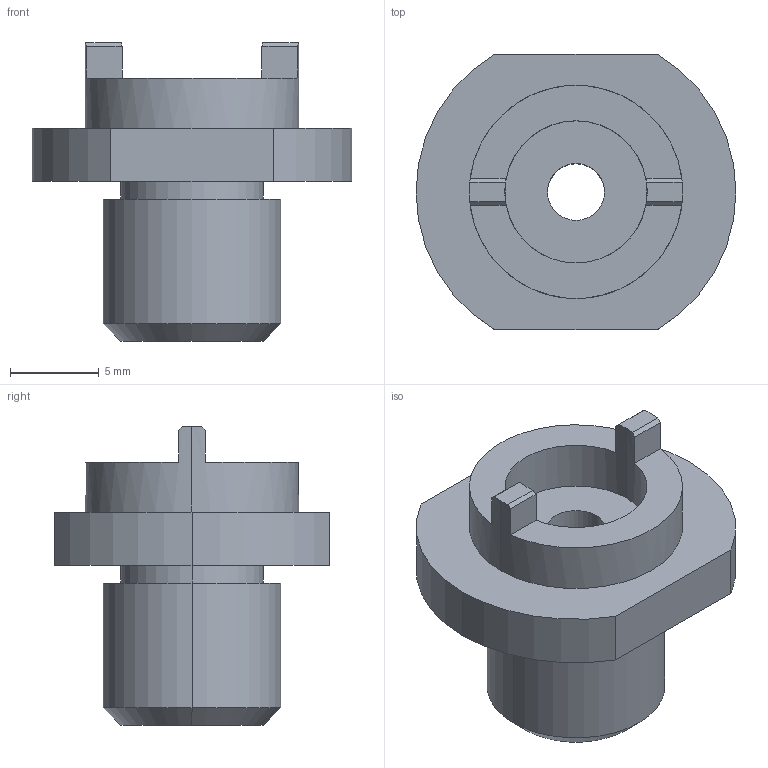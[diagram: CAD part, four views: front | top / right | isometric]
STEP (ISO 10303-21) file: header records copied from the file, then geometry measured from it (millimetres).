
FILE_DESCRIPTION(('CATIA V5 STEP Exchange'),'2;1');
FILE_NAME('D:\姚明阳\1、工装图纸\AGZ054 轻卡气悬浮阀芯组装工具\AGZ054 设计文件（可编辑版本）\AGZ54.03_V1.stp','2024-11-20T07:53:26+00:00',('none'),('none'),'CATIA Version 5 Release 21 GA (IN-10)','CATIA V5 STEP AP214','none');
FILE_SCHEMA(('AUTOMOTIVE_DESIGN { 1 0 10303 214 1 1 1 1 }'));
Length unit declared in the file: millimetre
Products named in the file (1): Part1
Bounding box: 18 x 15.5 x 16.8 mm (x, y, z)
Volume: 1472.2 mm3; surface area: 1265.9 mm2
Topology: 1 solids, 1 shells, 35 faces, 88 edges, 58 vertices
Faces by surface type: plane 19, cylinder 14, cone 2
Entity records: 995 total; most frequent: CARTESIAN_POINT 193, ORIENTED_EDGE 176, DIRECTION 124, EDGE_CURVE 88, AXIS2_PLACEMENT_3D 61, VERTEX_POINT 58, VECTOR 42, LINE 42
